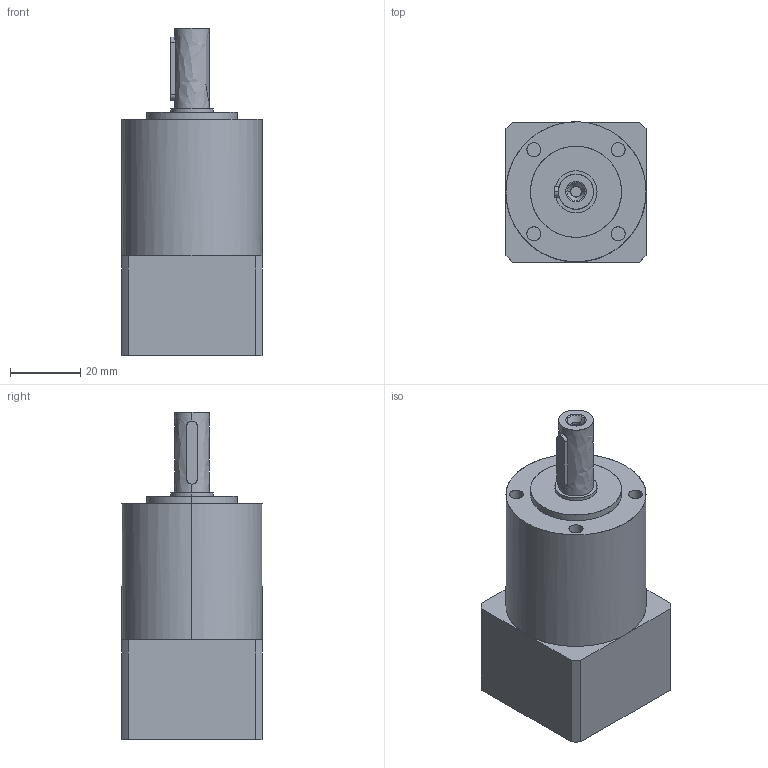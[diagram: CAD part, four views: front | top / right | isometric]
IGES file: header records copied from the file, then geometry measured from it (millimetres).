
Start section: Parasolid data in IGES format
Global section: file name: PLE40_1.igs; native system: Parasolid(11.0); preprocessor: Pariges 3.0; author: noname; organization: noname; date: 19991109.082508; units: millimetre
Bounding box: 40 x 40 x 93.5 mm (x, y, z)
Surface area: 15221.9 mm2 (no closed solid volume)
Topology: 0 solids, 0 shells, 72 faces, 923 edges, 923 vertices
Faces by surface type: bspline 72
